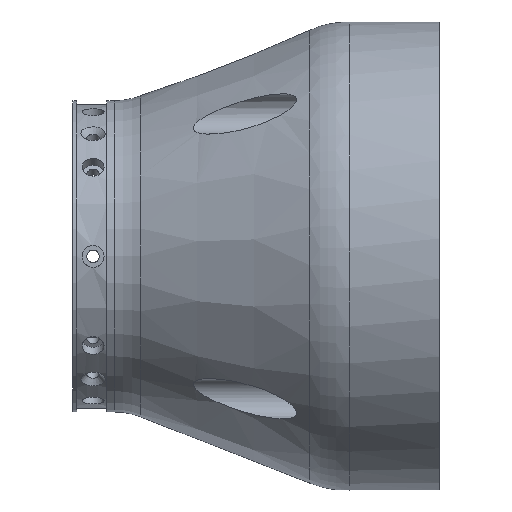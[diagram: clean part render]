
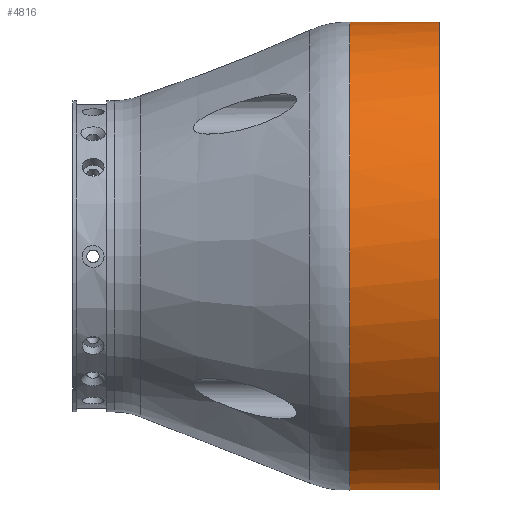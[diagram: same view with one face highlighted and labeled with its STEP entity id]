
A CAD part, left-side view. The second image highlights one B-rep face of the part: STEP entity #4816.
In plain terms, the highlighted cylindrical face has radius 64 mm (diameter 128 mm), a partial arc.
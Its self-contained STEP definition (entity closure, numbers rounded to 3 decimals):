
#21 = EDGE_CURVE ( 'NONE', #4699, #463, #4237, .T. ) ;
#167 = CARTESIAN_POINT ( 'NONE',  ( 14.796, 0., 62.266 ) ) ;
#219 = CARTESIAN_POINT ( 'NONE',  ( 14.796, -84.489, 62.266 ) ) ;
#297 = CARTESIAN_POINT ( 'NONE',  ( 17.164, -78.5, 61.656 ) ) ;
#368 = EDGE_LOOP ( 'NONE', ( #1370, #1683, #474, #4970, #2447 ) ) ;
#463 = VERTEX_POINT ( 'NONE', #1316 ) ;
#474 = ORIENTED_EDGE ( 'NONE', *, *, #1892, .T. ) ;
#519 = EDGE_CURVE ( 'NONE', #1690, #4641, #4953, .T. ) ;
#729 = CARTESIAN_POINT ( 'NONE',  ( 20.664, -75.833, 60.574 ) ) ;
#888 = CARTESIAN_POINT ( 'NONE',  ( 0., -100., 0. ) ) ;
#950 = DIRECTION ( 'NONE',  ( 0., 0., -1. ) ) ;
#1033 = CARTESIAN_POINT ( 'NONE',  ( 17.851, -77.775, 61.46 ) ) ;
#1066 = VERTEX_POINT ( 'NONE', #1417 ) ;
#1101 = DIRECTION ( 'NONE',  ( 0., 1., 0. ) ) ;
#1108 = CARTESIAN_POINT ( 'NONE',  ( 15.591, -81.056, 62.072 ) ) ;
#1316 = CARTESIAN_POINT ( 'NONE',  ( 14.796, -100., 62.266 ) ) ;
#1370 = ORIENTED_EDGE ( 'NONE', *, *, #1926, .T. ) ;
#1417 = CARTESIAN_POINT ( 'NONE',  ( 51.863, -75.655, -37.5 ) ) ;
#1470 = CARTESIAN_POINT ( 'NONE',  ( 20.221, -76.048, 60.723 ) ) ;
#1531 = CYLINDRICAL_SURFACE ( 'NONE', #3913, 64. ) ;
#1683 = ORIENTED_EDGE ( 'NONE', *, *, #519, .T. ) ;
#1690 = VERTEX_POINT ( 'NONE', #4128 ) ;
#1892 = EDGE_CURVE ( 'NONE', #4641, #1066, #5280, .T. ) ;
#1905 = CARTESIAN_POINT ( 'NONE',  ( 18.215, -77.437, 61.353 ) ) ;
#1926 = EDGE_CURVE ( 'NONE', #463, #1690, #2261, .T. ) ;
#1958 = CARTESIAN_POINT ( 'NONE',  ( 18.977, -76.815, 61.123 ) ) ;
#1982 = CARTESIAN_POINT ( 'NONE',  ( 17.673, -77.952, 61.512 ) ) ;
#2079 = LINE ( 'NONE', #3737, #3215 ) ;
#2124 = CARTESIAN_POINT ( 'NONE',  ( 0., -75.655, 0. ) ) ;
#2261 = LINE ( 'NONE', #167, #5020 ) ;
#2335 = CARTESIAN_POINT ( 'NONE',  ( 14.99, -82.973, 62.22 ) ) ;
#2389 = CARTESIAN_POINT ( 'NONE',  ( 21.111, -75.655, 60.418 ) ) ;
#2447 = ORIENTED_EDGE ( 'NONE', *, *, #21, .T. ) ;
#2541 = DIRECTION ( 'NONE',  ( 0., 0., 1. ) ) ;
#2726 = DIRECTION ( 'NONE',  ( 0., 1., 0. ) ) ;
#2765 = CARTESIAN_POINT ( 'NONE',  ( 16.854, -78.889, 61.742 ) ) ;
#2775 = DIRECTION ( 'NONE',  ( 0., 0., 1. ) ) ;
#2795 = CARTESIAN_POINT ( 'NONE',  ( 14.796, -85., 62.266 ) ) ;
#3197 = CARTESIAN_POINT ( 'NONE',  ( 18.402, -77.275, 61.298 ) ) ;
#3215 = VECTOR ( 'NONE', #5037, 1000. ) ;
#3551 = AXIS2_PLACEMENT_3D ( 'NONE', #2124, #4678, #950 ) ;
#3597 = FACE_OUTER_BOUND ( 'NONE', #368, .T. ) ;
#3737 = CARTESIAN_POINT ( 'NONE',  ( 51.863, 0., -37.5 ) ) ;
#3821 = CARTESIAN_POINT ( 'NONE',  ( 51.863, -100., -37.5 ) ) ;
#3882 = EDGE_CURVE ( 'NONE', #1066, #4699, #2079, .T. ) ;
#3913 = AXIS2_PLACEMENT_3D ( 'NONE', #5227, #2726, #2775 ) ;
#3972 = CARTESIAN_POINT ( 'NONE',  ( 14.835, -83.977, 62.257 ) ) ;
#3997 = CARTESIAN_POINT ( 'NONE',  ( 16.29, -79.71, 61.893 ) ) ;
#4026 = CARTESIAN_POINT ( 'NONE',  ( 16.036, -80.143, 61.959 ) ) ;
#4128 = CARTESIAN_POINT ( 'NONE',  ( 14.796, -85., 62.266 ) ) ;
#4237 = CIRCLE ( 'NONE', #4922, 64. ) ;
#4463 = CARTESIAN_POINT ( 'NONE',  ( 15.405, -81.524, 62.118 ) ) ;
#4641 = VERTEX_POINT ( 'NONE', #4960 ) ;
#4642 = DIRECTION ( 'NONE',  ( 0., 1., 0. ) ) ;
#4678 = DIRECTION ( 'NONE',  ( 0., -1., 0. ) ) ;
#4699 = VERTEX_POINT ( 'NONE', #3821 ) ;
#4816 = ADVANCED_FACE ( 'NONE', ( #3597 ), #1531, .T. ) ;
#4837 = CARTESIAN_POINT ( 'NONE',  ( 15.105, -82.483, 62.192 ) ) ;
#4922 = AXIS2_PLACEMENT_3D ( 'NONE', #888, #4642, #2541 ) ;
#4953 = B_SPLINE_CURVE_WITH_KNOTS ( 'NONE', 3,
 ( #2795, #219, #3972, #2335, #4837, #4463, #1108, #4026, #3997, #2765, #297, #1982, #1033, #1905, #3197, #1958, #5220, #1470, #729, #2389 ),
 .UNSPECIFIED., .F., .F.,
 ( 4, 2, 2, 2, 2, 2, 2, 2, 2, 4 ),
 ( 0., 0.002, 0.003, 0.005, 0.006, 0.008, 0.008, 0.009, 0.011, 0.012 ),
 .UNSPECIFIED. ) ;
#4960 = CARTESIAN_POINT ( 'NONE',  ( 21.111, -75.655, 60.418 ) ) ;
#4970 = ORIENTED_EDGE ( 'NONE', *, *, #3882, .T. ) ;
#5020 = VECTOR ( 'NONE', #1101, 1000. ) ;
#5037 = DIRECTION ( 'NONE',  ( 0., -1., 0. ) ) ;
#5220 = CARTESIAN_POINT ( 'NONE',  ( 19.379, -76.539, 60.997 ) ) ;
#5227 = CARTESIAN_POINT ( 'NONE',  ( 0., 0., 0. ) ) ;
#5280 = CIRCLE ( 'NONE', #3551, 64. ) ;
